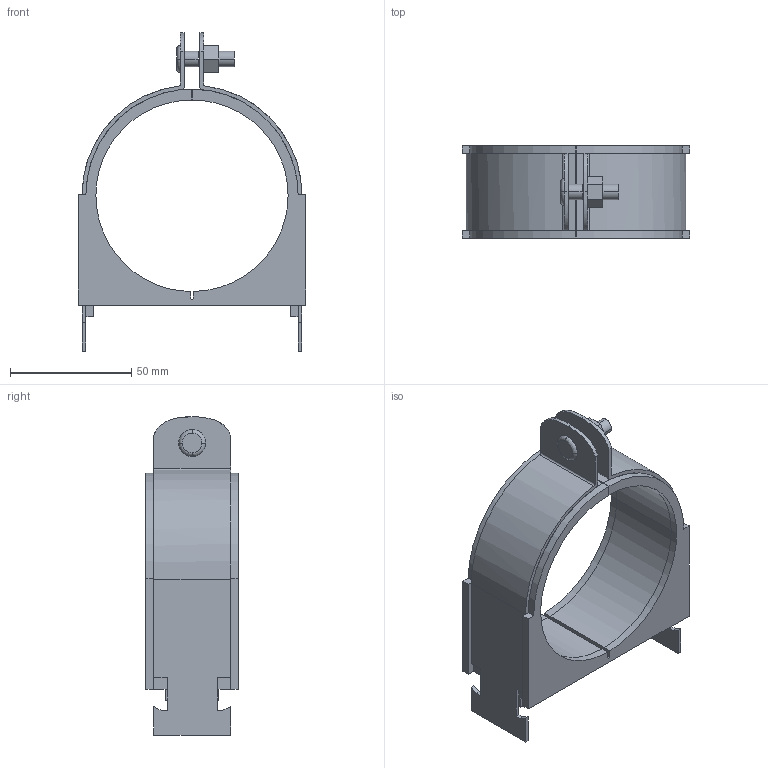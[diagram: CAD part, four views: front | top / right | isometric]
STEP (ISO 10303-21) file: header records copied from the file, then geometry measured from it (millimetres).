
FILE_DESCRIPTION(('TurboCAD Mac Pro'),'Build 980');
FILE_NAME('050N056.stp',' ',(''),(''),'ACIS Interop','IMSI','TurboCAD Mac Pro BY IMSI, INCORPORATED');
FILE_SCHEMA(('automotive_design'));
Length unit declared in the file: inch
Products named in the file (3): 1; 2; 3
Bounding box: 93.86 x 38.1 x 131.31 mm (x, y, z)
Volume: 96412.9 mm3; surface area: 48119.7 mm2
Topology: 3 solids, 3 shells, 146 faces, 380 edges, 244 vertices
Faces by surface type: plane 100, bspline 46
Entity records: 7006 total; most frequent: CARTESIAN_POINT 1715, ORIENTED_EDGE 760, DIRECTION 490, EDGE_CURVE 380, STYLED_ITEM 313, PRESENTATION_STYLE_ASSIGNMENT 313, COLOUR_RGB 313, LINE 276
